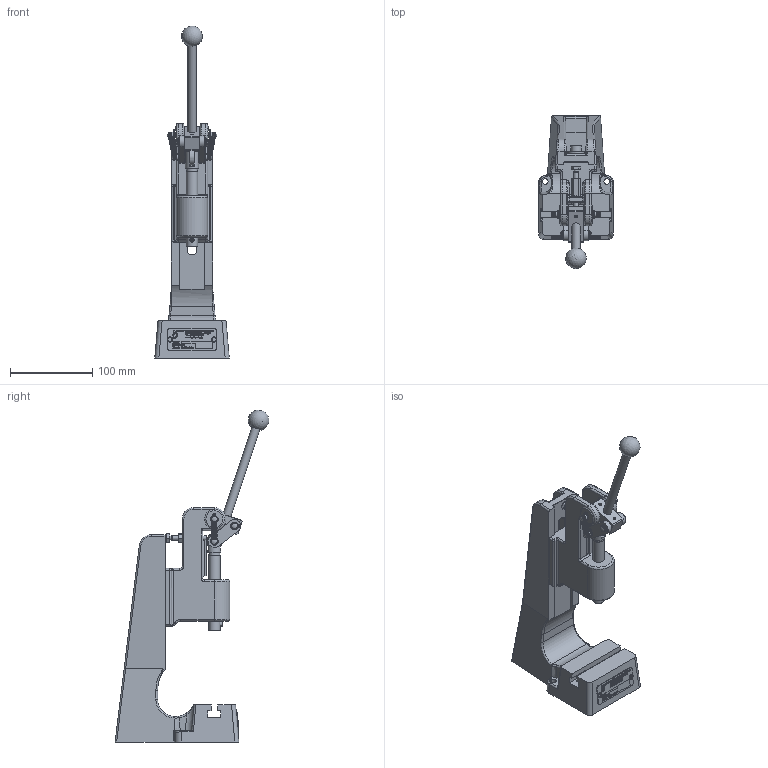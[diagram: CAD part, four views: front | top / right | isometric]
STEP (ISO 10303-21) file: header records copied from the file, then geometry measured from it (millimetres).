
FILE_DESCRIPTION(/* description */ ('Pressenständer 150 T'),/* implementation_level */ '2;1');
FILE_NAME(/* name */ 'B:\02_CAD_oeffentlich\CAD_3D_oeffentlich_step\Kniehebel Presse\HP_150_KT.stp',/* time_stamp */ '2017-05-11T07:15:17+02:00',/* author */ ('Finsterle'),/* organization */ (''),/* preprocessor_version */ 'ST-DEVELOPER v16.1',/* originating_system */ 'Autodesk Inventor 2016',/* authorisation */ '');
FILE_SCHEMA (('AUTOMOTIVE_DESIGN { 1 0 10303 214 3 1 1 }'));
Products named in the file (5): HBF-000806; HBF-000912_V; HBF-000314; HBF-000315; HBF-000914_V
Assembly tree (5 placements, depth 2):
  HBF-000914_V
    HBF-000806
    HBF-000912_V
    HBF-000314
    HBF-000315  x2
Bounding box: 90.48 x 186.89 x 403.63 mm (x, y, z)
Volume: 863502.5 mm3; surface area: 162888.9 mm2
Topology: 12 solids, 13 shells, 2778 faces, 7494 edges, 4921 vertices
Faces by surface type: plane 1497, bspline 929, cylinder 233, torus 68, cone 30, sphere 21
Full cylindrical faces by diameter (mm): 0.65 x4, 2 x2, 3 x4, 3.2 x2, 5 x1, 5.459 x1, 6 x2, 6.4 x1, 6.5 x8, 6.647 x1, 6.8 x2, 7 x17, 7.06 x4, 7.6 x1, 8 x2, 8.4 x2, 8.7 x1, 9.98 x1, 10 x1, 11.1 x2, 13 x4, 13.5 x1, 14 x2, 15.2 x2, 16 x1, 16.5 x2, 19 x1, 20 x2
Entity records: 106458 total; most frequent: CARTESIAN_POINT 41137, ORIENTED_EDGE 14582, DIRECTION 9635, EDGE_CURVE 7269, VERTEX_POINT 4834, LINE 4589, VECTOR 4589, EDGE_LOOP 3169
